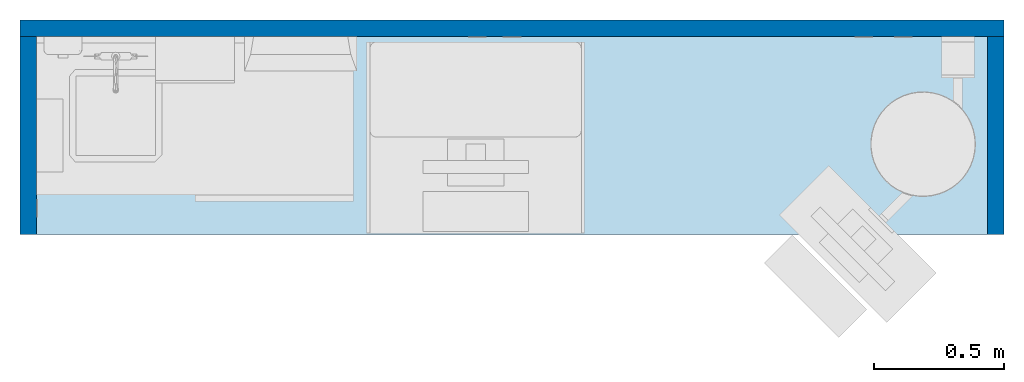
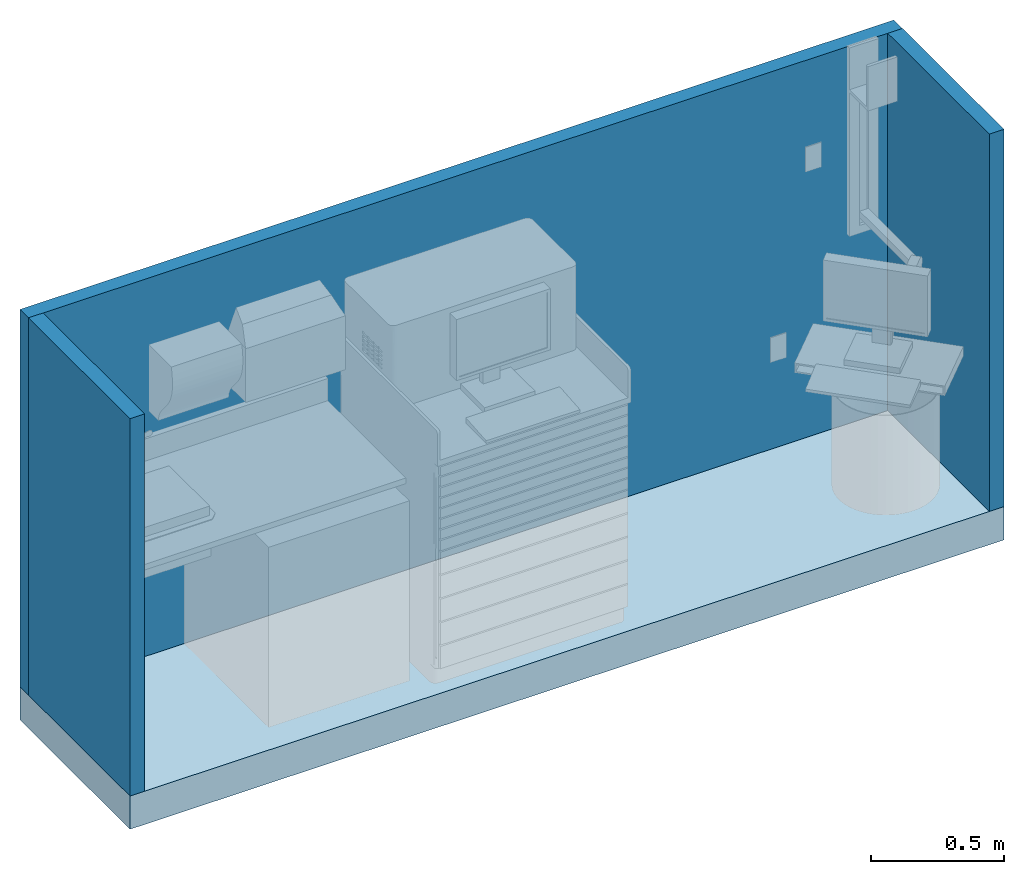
# One storey, part 1 of 3: 3 walls, 1 slab.
"""IFC2X3 building model written with IfcOpenShell, lengths in feet."""

from ifc_helpers import new_model, entity, si_unit, converted_unit, derived_unit, direction, frame, frame_2d, origin, place, context, subcontext, project, spatial, rectangle, extrude, material, layer, layer_set, layer_usage, type_object, element, save


model = new_model("IFC2X3")

# Units and contexts
model_context = context("Model", 3, precision=0.0001, world=origin(), true_north=direction((6.12303176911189e-17, 1.0)))
body_context = subcontext(model_context, "Body", "Model", "MODEL_VIEW")
ifc_project = project(units=[converted_unit("LENGTHUNIT", "FOOT", entity("IfcRatioMeasure", 0.3048), si_unit("LENGTHUNIT", "METRE"), dimensions=[1, 0, 0, 0, 0, 0, 0]), converted_unit("AREAUNIT", "SQUARE FOOT", entity("IfcRatioMeasure", 0.09290304), si_unit("AREAUNIT", "SQUARE_METRE"), dimensions=[2, 0, 0, 0, 0, 0, 0]), converted_unit("VOLUMEUNIT", "CUBIC FOOT", entity("IfcRatioMeasure", 0.028316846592), si_unit("VOLUMEUNIT", "CUBIC_METRE"), dimensions=[3, 0, 0, 0, 0, 0, 0]), converted_unit("PLANEANGLEUNIT", "DEGREE", entity("IfcRatioMeasure", 0.0174532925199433), si_unit("PLANEANGLEUNIT", "RADIAN"), dimensions=[0, 0, 0, 0, 0, 0, 0]), si_unit("MASSUNIT", "GRAM", prefix="KILO"), derived_unit("MASSDENSITYUNIT", [(si_unit("MASSUNIT", "GRAM", prefix="KILO"), 1), (si_unit("LENGTHUNIT", "METRE"), -3)]), si_unit("TIMEUNIT", "SECOND"), si_unit("FREQUENCYUNIT", "HERTZ"), si_unit("THERMODYNAMICTEMPERATUREUNIT", "DEGREE_CELSIUS"), derived_unit("THERMALTRANSMITTANCEUNIT", [(si_unit("MASSUNIT", "GRAM", prefix="KILO"), 1), (si_unit("THERMODYNAMICTEMPERATUREUNIT", "KELVIN"), -1), (si_unit("TIMEUNIT", "SECOND"), -3)]), derived_unit("VOLUMETRICFLOWRATEUNIT", [(si_unit("LENGTHUNIT", "METRE"), 3), (si_unit("TIMEUNIT", "SECOND"), -1)]), si_unit("ELECTRICCURRENTUNIT", "AMPERE"), si_unit("ELECTRICVOLTAGEUNIT", "VOLT"), si_unit("POWERUNIT", "WATT"), si_unit("FORCEUNIT", "NEWTON"), si_unit("ILLUMINANCEUNIT", "LUX"), si_unit("LUMINOUSFLUXUNIT", "LUMEN"), si_unit("LUMINOUSINTENSITYUNIT", "CANDELA"), derived_unit("USERDEFINED", [(si_unit("MASSUNIT", "GRAM", prefix="KILO"), -1), (si_unit("LENGTHUNIT", "METRE"), -2), (si_unit("TIMEUNIT", "SECOND"), 3), (si_unit("LUMINOUSFLUXUNIT", "LUMEN"), 1)]), derived_unit("LINEARVELOCITYUNIT", [(si_unit("LENGTHUNIT", "METRE"), 1), (si_unit("TIMEUNIT", "SECOND"), -1)]), si_unit("PRESSUREUNIT", "PASCAL"), derived_unit("USERDEFINED", [(si_unit("LENGTHUNIT", "METRE"), -2), (si_unit("MASSUNIT", "GRAM", prefix="KILO"), 1), (si_unit("TIMEUNIT", "SECOND"), -2)])], contexts=[model_context])

# Site, building, storey
site_placement = place(None, origin())
site = spatial("IfcSite", under=ifc_project, at=site_placement, Name="Default", CompositionType="ELEMENT")
building_placement = place(site_placement, origin())
building = spatial("IfcBuilding", under=site, at=building_placement, Name="OUTPATIENT / PACT CLINIC (Ch. 265)", CompositionType="ELEMENT")
storey_placement = place(building_placement, origin())
storey = spatial("IfcBuildingStorey", under=building, at=storey_placement, Name="DATUM", CompositionType="ELEMENT", Elevation=0.0)

# Slab
ifc_material = material(Name="<Unnamed>")
ifc_layer_1 = layer(ifc_material, 0.5)
ifc_layer_set_1 = layer_set([ifc_layer_1], Name="Floor:Generic - 6\"")
ifc_layer_usage_1 = layer_usage(ifc_layer_set_1, "AXIS3", "POSITIVE", 0.0)
slab_placement = place(storey_placement, origin())
element("IfcSlab", 1, at=slab_placement, inside=storey, material=ifc_layer_usage_1, Name="Floor:Generic - 6\"", ObjectType="Floor:Generic - 6\"", PredefinedType="FLOOR", context=body_context, shape_type="SweptSolid", body=[
    extrude(rectangle(XDim=2.70833333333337, YDim=12.4166666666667, at=frame_2d((-5.6843418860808e-14, -1.77635683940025e-15), x_axis=(1.0, 0.0))), frame((30.6274838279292, -855.71355535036, 0.0), z_axis=(0.0, 0.0, -1.0), x_axis=(0.0, 1.0, 0.0)), (0.0, 0.0, 1.0), 0.5),
])

# Walls
ifc_layer_2 = layer(ifc_material, 0.208333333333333)
ifc_layer_set_2 = layer_set([ifc_layer_2], Name="Basic Wall:Systems Wall")
ifc_layer_usage_2 = layer_usage(ifc_layer_set_2, "AXIS2", "POSITIVE", -0.104166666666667)
wall_type = type_object("IfcWallType", Name="Basic Wall:Systems Wall", PredefinedType="STANDARD", material=ifc_layer_set_2)
wall_1_placement = place(storey_placement, frame((24.4191504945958, -854.46355535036, 0.0)))
element("IfcWallStandardCase", 2, at=wall_1_placement, inside=storey, type_object=wall_type, material=ifc_layer_usage_2, Name="Basic Wall:Systems Wall", ObjectType="Basic Wall:Systems Wall", context=body_context, shape_type="SweptSolid", body=[
    extrude(rectangle(XDim=12.4166666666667, YDim=0.208333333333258, at=frame_2d((6.20833333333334, 2.00117700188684e-14), x_axis=(-1.0, 0.0))), origin(), (0.0, 0.0, 1.0), 5.66666666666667),
])
ifc_layer_usage_3 = layer_usage(ifc_layer_set_2, "AXIS2", "NEGATIVE", 0.104166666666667)
wall_2_placement = place(storey_placement, frame((36.7316504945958, -854.567722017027, 0.0), z_axis=(0.0, 0.0, 1.0), x_axis=(0.0, -1.0, 0.0)))
element("IfcWallStandardCase", 3, at=wall_2_placement, inside=storey, type_object=wall_type, material=ifc_layer_usage_3, Name="Basic Wall:Systems Wall", ObjectType="Basic Wall:Systems Wall", context=body_context, shape_type="SweptSolid", body=[
    extrude(rectangle(XDim=2.5, YDim=0.208333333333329, at=frame_2d((1.25, 0.0), x_axis=(-1.0, 0.0))), origin(), (0.0, 0.0, 1.0), 5.66666666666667),
])
ifc_layer_usage_4 = layer_usage(ifc_layer_set_2, "AXIS2", "POSITIVE", -0.104166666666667)
wall_3_placement = place(storey_placement, frame((24.5233171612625, -854.567722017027, 0.0), z_axis=(0.0, 0.0, 1.0), x_axis=(0.0, -1.0, 0.0)))
element("IfcWallStandardCase", 4, at=wall_3_placement, inside=storey, type_object=wall_type, material=ifc_layer_usage_4, Name="Basic Wall:Systems Wall", ObjectType="Basic Wall:Systems Wall", context=body_context, shape_type="SweptSolid", body=[
    extrude(rectangle(XDim=2.5, YDim=0.208333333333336, at=frame_2d((1.25, 0.0), x_axis=(-1.0, 0.0))), origin(), (0.0, 0.0, 1.0), 5.66666666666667),
])

save(model, "model.ifc")
